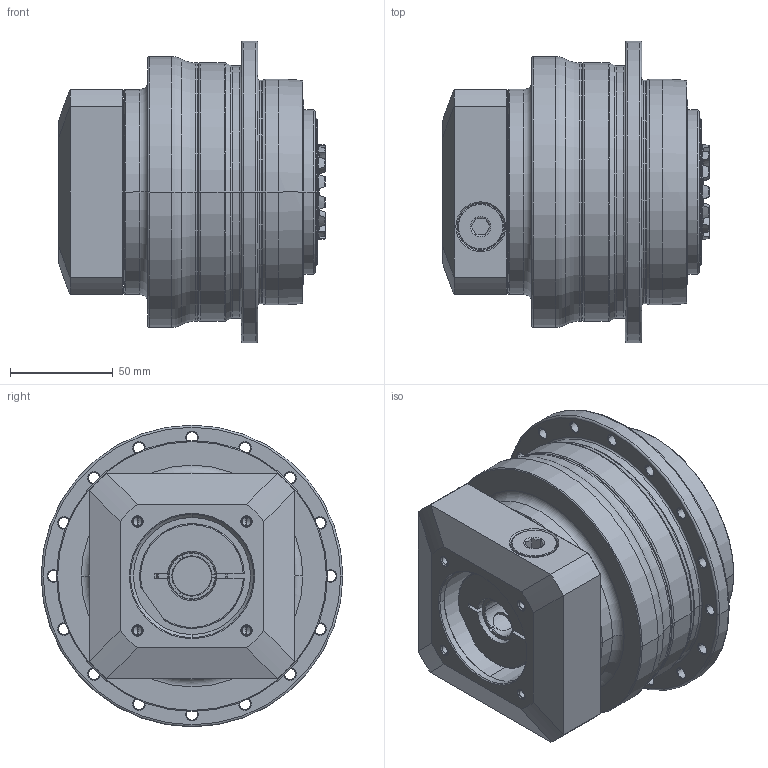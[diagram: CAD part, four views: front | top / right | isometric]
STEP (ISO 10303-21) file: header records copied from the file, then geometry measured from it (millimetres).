
FILE_DESCRIPTION((''),'2;1');
FILE_NAME('APC110_1ST_19-P0409410201_ASM','2018-06-08T',('d01226'),(''),'PRO/ENGINEER BY PARAMETRIC TECHNOLOGY CORPORATION, 2008410','PRO/ENGINEER BY PARAMETRIC TECHNOLOGY CORPORATION, 2008410','');
FILE_SCHEMA(('CONFIG_CONTROL_DESIGN'));
Length unit declared in the file: millimetre
Products named in the file (9): P0278400003; P03594C0103; P1318410001; P0503400008; P0912400001; P1211400001; P0409410201; 21711416017; APC110_1ST_19-P0409410201_ASM
Assembly tree (8 placements, depth 2):
  APC110_1ST_19-P0409410201_ASM
    P0278400003
    P03594C0103
    P1318410001
    P0503400008
    P0912400001
    P1211400001
    P0409410201
    21711416017
Bounding box: 129.9 x 147 x 147 mm (x, y, z)
Volume: 1399043.2 mm3; surface area: 206893.3 mm2
Topology: 9 solids, 20 shells, 611 faces, 1461 edges, 889 vertices
Faces by surface type: cone 192, cylinder 190, plane 117, torus 98, bspline 14
Entity records: 22849 total; most frequent: CARTESIAN_POINT 8323, DIRECTION 3245, ORIENTED_EDGE 2844, EDGE_CURVE 1443, AXIS2_PLACEMENT_3D 1409, VERTEX_POINT 889, CIRCLE 785, EDGE_LOOP 694
